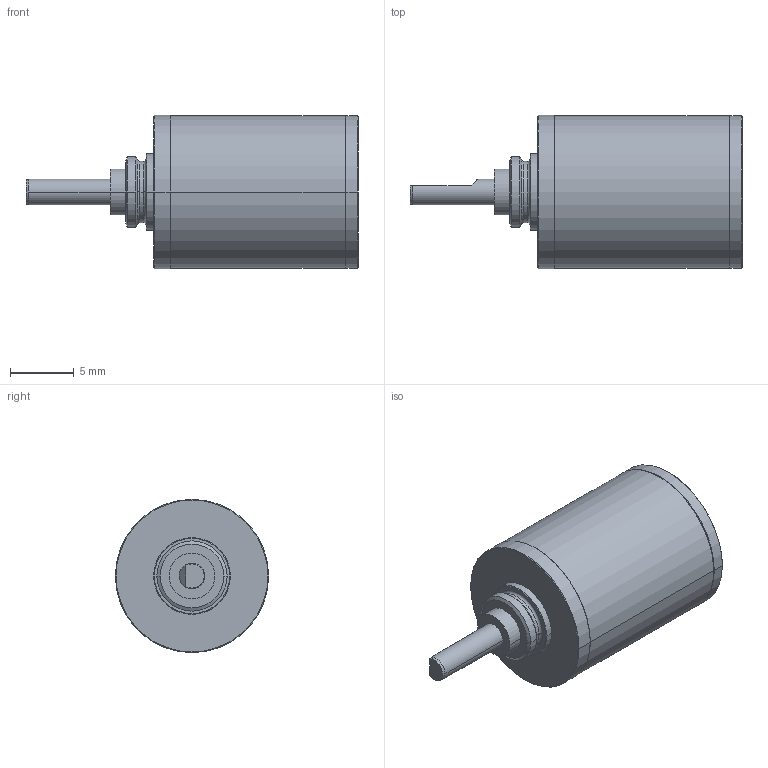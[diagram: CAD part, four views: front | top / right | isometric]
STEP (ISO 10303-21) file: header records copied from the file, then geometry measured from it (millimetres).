
FILE_DESCRIPTION((''),'2;1');
FILE_NAME('GS12A','2016-10-06T',('mmagpetk'),(''),'CREO PARAMETRIC BY PTC INC, 2016050','CREO PARAMETRIC BY PTC INC, 2016050','');
FILE_SCHEMA(('CONFIG_CONTROL_DESIGN'));
Length unit declared in the file: millimetre
Products named in the file (1): GS12A
Bounding box: 26 x 12 x 12 mm (x, y, z)
Volume: 1674.9 mm3; surface area: 1281.1 mm2
Topology: 1 solids, 2 shells, 100 faces, 213 edges, 128 vertices
Faces by surface type: cylinder 36, cone 27, plane 25, torus 12
Entity records: 3529 total; most frequent: CARTESIAN_POINT 528, DIRECTION 524, ORIENTED_EDGE 426, AXIS2_PLACEMENT_3D 225, PRESENTATION_STYLE_ASSIGNMENT 214, STYLED_ITEM 214, CURVE_STYLE 213, EDGE_CURVE 213
